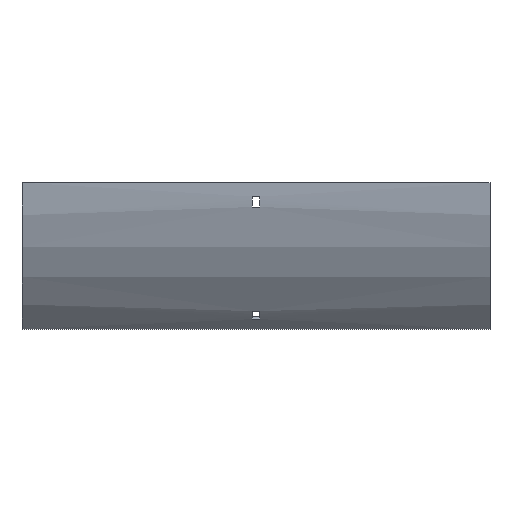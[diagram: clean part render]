
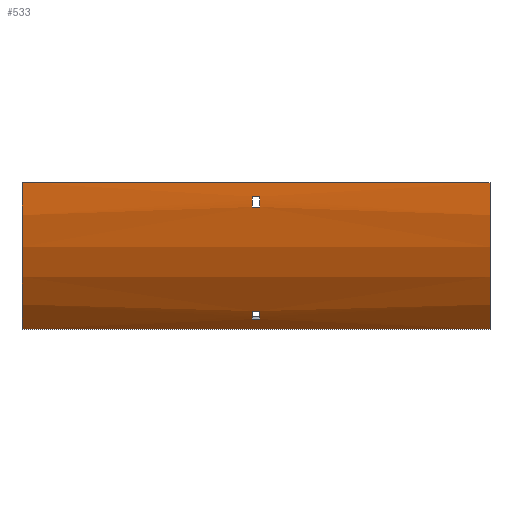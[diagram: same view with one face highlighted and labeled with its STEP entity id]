
A CAD part, front view. The second image highlights one B-rep face of the part: STEP entity #533.
In plain terms, the highlighted cylindrical face has radius 179 mm (diameter 358 mm), a partial arc.
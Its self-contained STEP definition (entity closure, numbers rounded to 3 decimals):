
#4 = VERTEX_POINT ( 'NONE', #1329 ) ;
#9 = EDGE_CURVE ( 'NONE', #13, #1463, #1236, .T. ) ;
#13 = VERTEX_POINT ( 'NONE', #1219 ) ;
#53 = LINE ( 'NONE', #61, #790 ) ;
#61 = CARTESIAN_POINT ( 'NONE',  ( 202., -77.764, -21. ) ) ;
#80 = DIRECTION ( 'NONE',  ( -1., 0., 0. ) ) ;
#90 = CARTESIAN_POINT ( 'NONE',  ( -3.25, -40.547, -110.849 ) ) ;
#134 = DIRECTION ( 'NONE',  ( -1., 0., 0. ) ) ;
#155 = EDGE_CURVE ( 'NONE', #1636, #670, #760, .T. ) ;
#166 = AXIS2_PLACEMENT_3D ( 'NONE', #1133, #1512, #214 ) ;
#174 = CARTESIAN_POINT ( 'NONE',  ( -3.25, 100., 0. ) ) ;
#196 = CARTESIAN_POINT ( 'NONE',  ( 202., -40.547, -110.849 ) ) ;
#201 = CARTESIAN_POINT ( 'NONE',  ( 202., 100., 0. ) ) ;
#209 = EDGE_CURVE ( 'NONE', #700, #4, #53, .T. ) ;
#214 = DIRECTION ( 'NONE',  ( 0., 0., 1. ) ) ;
#217 = FACE_OUTER_BOUND ( 'NONE', #314, .T. ) ;
#223 = FACE_BOUND ( 'NONE', #468, .T. ) ;
#264 = CARTESIAN_POINT ( 'NONE',  ( 3.25, -77.764, -21. ) ) ;
#294 = DIRECTION ( 'NONE',  ( 1., 0., 0. ) ) ;
#309 = DIRECTION ( 'NONE',  ( -1., 0., 0. ) ) ;
#314 = EDGE_LOOP ( 'NONE', ( #1111, #844, #1204, #691 ) ) ;
#319 = CIRCLE ( 'NONE', #976, 179. ) ;
#348 = FACE_BOUND ( 'NONE', #1555, .T. ) ;
#384 = EDGE_CURVE ( 'NONE', #1299, #700, #649, .T. ) ;
#393 = LINE ( 'NONE', #1316, #1369 ) ;
#406 = ORIENTED_EDGE ( 'NONE', *, *, #384, .T. ) ;
#427 = DIRECTION ( 'NONE',  ( -1., 0., 0. ) ) ;
#438 = CARTESIAN_POINT ( 'NONE',  ( 202., -78.597, -12. ) ) ;
#455 = AXIS2_PLACEMENT_3D ( 'NONE', #1174, #924, #776 ) ;
#468 = EDGE_LOOP ( 'NONE', ( #1692, #1330, #1444, #406 ) ) ;
#473 = LINE ( 'NONE', #196, #1575 ) ;
#509 = CARTESIAN_POINT ( 'NONE',  ( -3.25, -34.773, -117.802 ) ) ;
#533 = ADVANCED_FACE ( 'NONE', ( #217, #223, #348 ), #1025, .T. ) ;
#550 = CARTESIAN_POINT ( 'NONE',  ( 3.25, -40.547, -110.849 ) ) ;
#558 = DIRECTION ( 'NONE',  ( 0., 0., 1. ) ) ;
#563 = VERTEX_POINT ( 'NONE', #90 ) ;
#574 = CARTESIAN_POINT ( 'NONE',  ( -202., -79., 0. ) ) ;
#617 = VERTEX_POINT ( 'NONE', #1155 ) ;
#619 = DIRECTION ( 'NONE',  ( 1., 0., 0. ) ) ;
#649 = CIRCLE ( 'NONE', #786, 179. ) ;
#660 = VERTEX_POINT ( 'NONE', #509 ) ;
#670 = VERTEX_POINT ( 'NONE', #550 ) ;
#688 = CARTESIAN_POINT ( 'NONE',  ( 3.25, 100., 0. ) ) ;
#691 = ORIENTED_EDGE ( 'NONE', *, *, #1012, .T. ) ;
#700 = VERTEX_POINT ( 'NONE', #264 ) ;
#728 = CIRCLE ( 'NONE', #1680, 179. ) ;
#742 = DIRECTION ( 'NONE',  ( -1., 0., 0. ) ) ;
#760 = CIRCLE ( 'NONE', #166, 179. ) ;
#776 = DIRECTION ( 'NONE',  ( 0., 0., -1. ) ) ;
#786 = AXIS2_PLACEMENT_3D ( 'NONE', #688, #1461, #1069 ) ;
#790 = VECTOR ( 'NONE', #80, 1000. ) ;
#792 = ORIENTED_EDGE ( 'NONE', *, *, #1336, .F. ) ;
#844 = ORIENTED_EDGE ( 'NONE', *, *, #9, .F. ) ;
#853 = VECTOR ( 'NONE', #427, 1000. ) ;
#854 = ORIENTED_EDGE ( 'NONE', *, *, #155, .F. ) ;
#887 = DIRECTION ( 'NONE',  ( 1., 0., 0. ) ) ;
#912 = ORIENTED_EDGE ( 'NONE', *, *, #1233, .F. ) ;
#924 = DIRECTION ( 'NONE',  ( 1., 0., 0. ) ) ;
#976 = AXIS2_PLACEMENT_3D ( 'NONE', #1420, #619, #1431 ) ;
#986 = CARTESIAN_POINT ( 'NONE',  ( 202., -79., 0. ) ) ;
#1012 = EDGE_CURVE ( 'NONE', #1262, #1504, #393, .T. ) ;
#1025 = CYLINDRICAL_SURFACE ( 'NONE', #1118, 179. ) ;
#1027 = LINE ( 'NONE', #1679, #1627 ) ;
#1065 = CARTESIAN_POINT ( 'NONE',  ( -202., -26.572, -126.572 ) ) ;
#1069 = DIRECTION ( 'NONE',  ( 0., 0., -1. ) ) ;
#1111 = ORIENTED_EDGE ( 'NONE', *, *, #1300, .T. ) ;
#1118 = AXIS2_PLACEMENT_3D ( 'NONE', #201, #742, #1287 ) ;
#1126 = DIRECTION ( 'NONE',  ( -1., 0., 0. ) ) ;
#1133 = CARTESIAN_POINT ( 'NONE',  ( 3.25, 100., 0. ) ) ;
#1140 = AXIS2_PLACEMENT_3D ( 'NONE', #1600, #1509, #1621 ) ;
#1154 = EDGE_CURVE ( 'NONE', #1262, #13, #1549, .T. ) ;
#1155 = CARTESIAN_POINT ( 'NONE',  ( -3.25, -78.597, -12. ) ) ;
#1174 = CARTESIAN_POINT ( 'NONE',  ( -3.25, 100., 0. ) ) ;
#1203 = CIRCLE ( 'NONE', #455, 179. ) ;
#1204 = ORIENTED_EDGE ( 'NONE', *, *, #1154, .F. ) ;
#1219 = CARTESIAN_POINT ( 'NONE',  ( 202., -26.572, -126.572 ) ) ;
#1233 = EDGE_CURVE ( 'NONE', #670, #563, #473, .T. ) ;
#1236 = LINE ( 'NONE', #1603, #853 ) ;
#1262 = VERTEX_POINT ( 'NONE', #986 ) ;
#1270 = CARTESIAN_POINT ( 'NONE',  ( 3.25, -34.773, -117.802 ) ) ;
#1287 = DIRECTION ( 'NONE',  ( 0., 0., 1. ) ) ;
#1299 = VERTEX_POINT ( 'NONE', #1557 ) ;
#1300 = EDGE_CURVE ( 'NONE', #1504, #1463, #319, .T. ) ;
#1316 = CARTESIAN_POINT ( 'NONE',  ( 202., -79., 0. ) ) ;
#1329 = CARTESIAN_POINT ( 'NONE',  ( -3.25, -77.764, -21. ) ) ;
#1330 = ORIENTED_EDGE ( 'NONE', *, *, #1445, .T. ) ;
#1336 = EDGE_CURVE ( 'NONE', #660, #1636, #1027, .T. ) ;
#1356 = EDGE_CURVE ( 'NONE', #563, #660, #1203, .T. ) ;
#1358 = LINE ( 'NONE', #438, #1469 ) ;
#1369 = VECTOR ( 'NONE', #134, 1000. ) ;
#1420 = CARTESIAN_POINT ( 'NONE',  ( -202., 100., 0. ) ) ;
#1431 = DIRECTION ( 'NONE',  ( 0., 0., -1. ) ) ;
#1444 = ORIENTED_EDGE ( 'NONE', *, *, #1495, .T. ) ;
#1445 = EDGE_CURVE ( 'NONE', #4, #617, #728, .T. ) ;
#1461 = DIRECTION ( 'NONE',  ( 1., 0., 0. ) ) ;
#1463 = VERTEX_POINT ( 'NONE', #1065 ) ;
#1469 = VECTOR ( 'NONE', #294, 1000. ) ;
#1495 = EDGE_CURVE ( 'NONE', #617, #1299, #1358, .T. ) ;
#1504 = VERTEX_POINT ( 'NONE', #574 ) ;
#1509 = DIRECTION ( 'NONE',  ( 1., 0., 0. ) ) ;
#1512 = DIRECTION ( 'NONE',  ( -1., 0., 0. ) ) ;
#1549 = CIRCLE ( 'NONE', #1140, 179. ) ;
#1555 = EDGE_LOOP ( 'NONE', ( #1666, #912, #854, #792 ) ) ;
#1557 = CARTESIAN_POINT ( 'NONE',  ( 3.25, -78.597, -12. ) ) ;
#1575 = VECTOR ( 'NONE', #1126, 1000. ) ;
#1600 = CARTESIAN_POINT ( 'NONE',  ( 202., 100., 0. ) ) ;
#1603 = CARTESIAN_POINT ( 'NONE',  ( 202., -26.572, -126.572 ) ) ;
#1621 = DIRECTION ( 'NONE',  ( 0., 0., -1. ) ) ;
#1627 = VECTOR ( 'NONE', #887, 1000. ) ;
#1636 = VERTEX_POINT ( 'NONE', #1270 ) ;
#1666 = ORIENTED_EDGE ( 'NONE', *, *, #1356, .F. ) ;
#1679 = CARTESIAN_POINT ( 'NONE',  ( 202., -34.773, -117.802 ) ) ;
#1680 = AXIS2_PLACEMENT_3D ( 'NONE', #174, #309, #558 ) ;
#1692 = ORIENTED_EDGE ( 'NONE', *, *, #209, .T. ) ;
